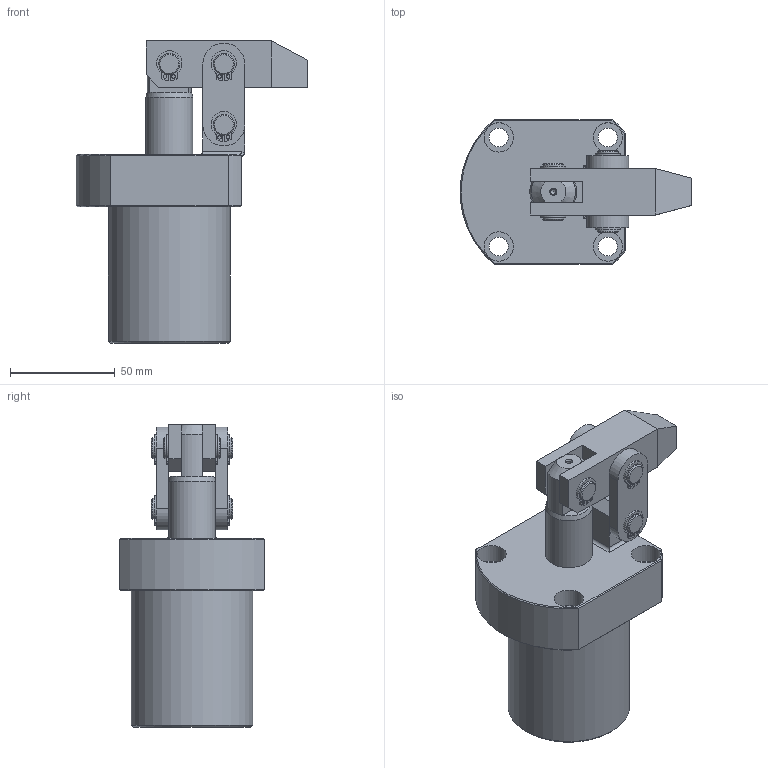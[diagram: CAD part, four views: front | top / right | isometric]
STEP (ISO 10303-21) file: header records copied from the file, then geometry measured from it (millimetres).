
FILE_DESCRIPTION(/* description */ ('Unknown'),/* implementation_level */ '2;1');
FILE_NAME(/* name */ 'HLC-FAM40-A',/* time_stamp */ '2022-11-23T03:15:58+08:00',/* author */ ('Unknown'),/* organization */ ('Unknown'),/* preprocessor_version */ 'ST-DEVELOPER v16.7',/* originating_system */ 'DEX',/* authorisation */ $);
FILE_SCHEMA (('AUTOMOTIVE_DESIGN {1 0 10303 214 3 1 1}'));
Length unit declared in the file: millimetre
Products named in the file (8): HLC-FAM40-A; HLC-FAM40-CYLINDER; HLC-4002-AXLE CENTRE; HLC-40-A; HLC-40-乖婂湀; HLC-40-PINµu-; HLC-40-PINªø; HLC-40-C扣0
Assembly tree (14 placements, depth 2):
  HLC-FAM40-A
    HLC-FAM40-CYLINDER
    HLC-4002-AXLE CENTRE
    HLC-40-A
    HLC-40-乖婂湀  x2
    HLC-40-PINµu-
    HLC-40-PINªø  x2
    HLC-40-C扣0  x6
Bounding box: 110.36 x 69 x 144.2 mm (x, y, z)
Volume: 319388.8 mm3; surface area: 71236.2 mm2
Topology: 14 solids, 14 shells, 264 faces, 602 edges, 393 vertices
Faces by surface type: cylinder 123, plane 117, cone 22, torus 2
Full cylindrical faces by diameter (mm): 1.7 x12, 2.496 x1, 3 x2, 4.1 x2, 9 x4, 9.5 x6, 10 x18, 12 x2, 14 x4, 22.4 x2, 39.5 x1, 40 x1, 58 x1
Entity records: 4380 total; most frequent: DIRECTION 765, CARTESIAN_POINT 732, ORIENTED_EDGE 568, AXIS2_PLACEMENT_3D 321, EDGE_CURVE 284, FACE_BOUND 266, EDGE_LOOP 265, VERTEX_POINT 212
